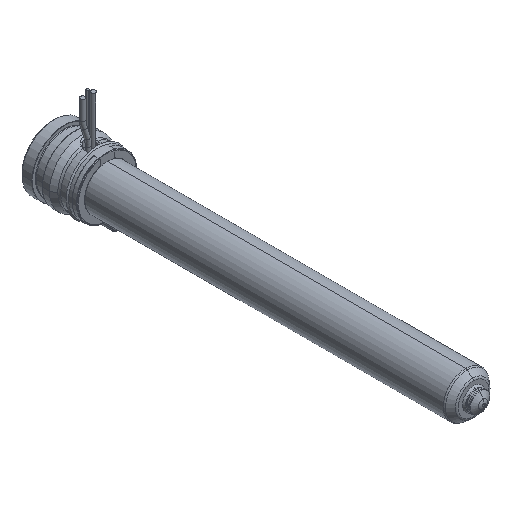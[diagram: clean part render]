
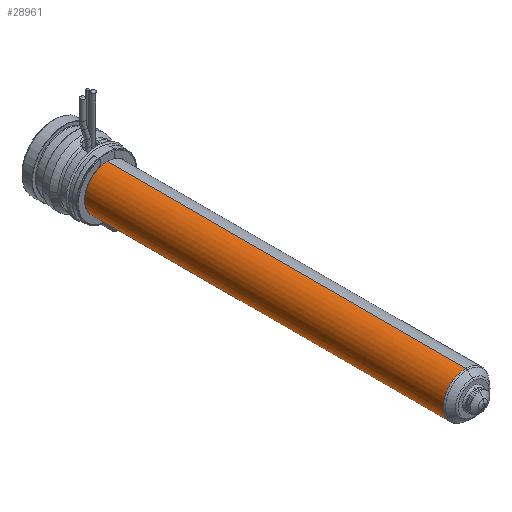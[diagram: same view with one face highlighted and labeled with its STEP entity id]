
A CAD part, isometric view. The second image highlights one B-rep face of the part: STEP entity #28961.
In plain terms, the highlighted cylindrical face has radius 9 mm (diameter 18 mm), a partial arc.
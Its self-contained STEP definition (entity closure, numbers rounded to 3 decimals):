
#28350=CARTESIAN_POINT('',(0.,-165.836,0.));
#28351=DIRECTION('',(0.,-1.,0.));
#28352=DIRECTION('',(0.,0.,1.));
#28353=AXIS2_PLACEMENT_3D('',#28350,#28351,#28352);
#28358=CARTESIAN_POINT('',(0.,-22.,0.));
#28359=DIRECTION('',(0.,-1.,0.));
#28360=DIRECTION('',(0.,0.,1.));
#28361=AXIS2_PLACEMENT_3D('',#28358,#28359,#28360);
#28366=DIRECTION('',(0.,-1.,0.));
#28367=VECTOR('',#28366,143.836);
#28368=CARTESIAN_POINT('',(0.,-22.,9.));
#28369=LINE('',#28368,#28367);
#28381=DIRECTION('',(0.,-1.,0.));
#28382=VECTOR('',#28381,143.836);
#28383=CARTESIAN_POINT('',(0.,-22.,-9.));
#28384=LINE('',#28383,#28382);
#28578=CARTESIAN_POINT('',(0.,-22.,9.));
#28579=CARTESIAN_POINT('',(0.,-165.836,9.));
#28580=VERTEX_POINT('',#28578);
#28581=VERTEX_POINT('',#28579);
#28604=CARTESIAN_POINT('',(0.,-22.,-9.));
#28605=CARTESIAN_POINT('',(0.,-165.836,-9.));
#28606=VERTEX_POINT('',#28604);
#28607=VERTEX_POINT('',#28605);
#28947=CARTESIAN_POINT('',(0.,-10.2,0.));
#28948=DIRECTION('',(0.,-1.,0.));
#28949=DIRECTION('',(0.,0.,1.));
#28950=AXIS2_PLACEMENT_3D('',#28947,#28948,#28949);
#28951=CYLINDRICAL_SURFACE('',#28950,9.);
#28953=ORIENTED_EDGE('',*,*,#28952,.T.);
#28954=ORIENTED_EDGE('',*,*,#28942,.T.);
#28956=ORIENTED_EDGE('',*,*,#28955,.F.);
#28958=ORIENTED_EDGE('',*,*,#28957,.F.);
#28959=EDGE_LOOP('',(#28953,#28954,#28956,#28958));
#28960=FACE_OUTER_BOUND('',#28959,.F.);
#28961=ADVANCED_FACE('',(#28960),#28951,.T.);
#28354=CIRCLE('',#28353,9.);
#28362=CIRCLE('',#28361,9.);
#28942=EDGE_CURVE('',#28581,#28607,#28354,.T.);
#28952=EDGE_CURVE('',#28580,#28581,#28369,.T.);
#28955=EDGE_CURVE('',#28606,#28607,#28384,.T.);
#28957=EDGE_CURVE('',#28580,#28606,#28362,.T.);
